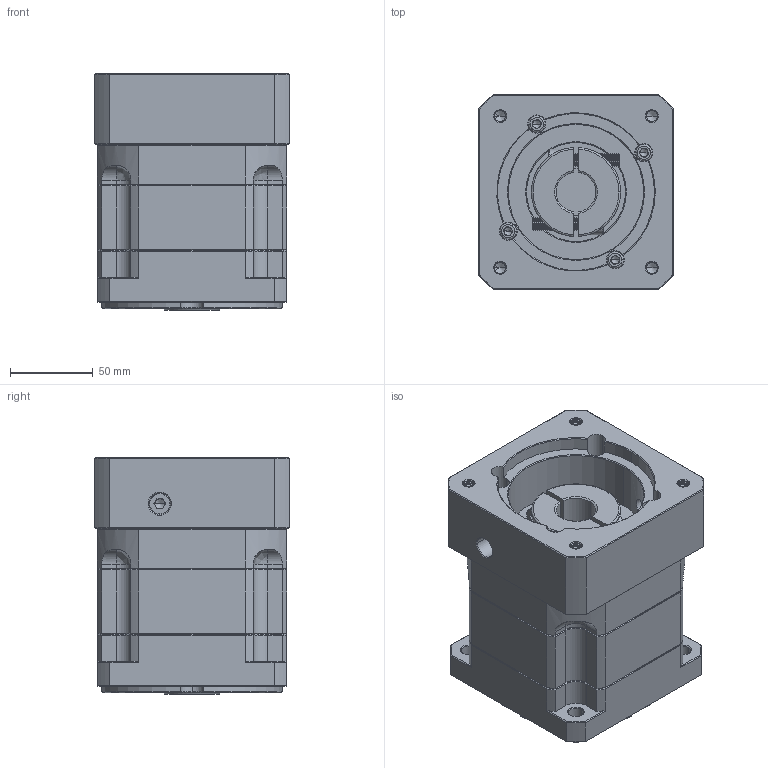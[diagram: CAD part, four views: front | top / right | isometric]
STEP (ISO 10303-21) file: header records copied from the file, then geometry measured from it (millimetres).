
FILE_DESCRIPTION (( 'STEP AP214' ), '1' );
FILE_NAME ('ZB115A-K25-L1-24-95-130-M8.step', '2023-03-02T09:04:06', ( '' ), ( 'Microsoft' ), 'SwSTEP 2.0', 'SolidWorks 2016', '' );
FILE_SCHEMA (( 'AUTOMOTIVE_DESIGN' ));
Length unit declared in the file: millimetre
Products named in the file (1): ZB115A-K25-L1-24-95-130-M8
Bounding box: 118 x 118 x 143.5 mm (x, y, z)
Volume: 1517817.8 mm3; surface area: 166953.1 mm2
Topology: 6 solids, 6 shells, 2068 faces, 5354 edges, 3377 vertices
Faces by surface type: plane 957, cylinder 411, cone 364, bspline 316, torus 20
Entity records: 108254 total; most frequent: CARTESIAN_POINT 37680, ORIENTED_EDGE 10644, DIRECTION 8788, EDGE_CURVE 5322, VERTEX_POINT 3377, LINE 3328, VECTOR 3328, AXIS2_PLACEMENT_3D 2730
